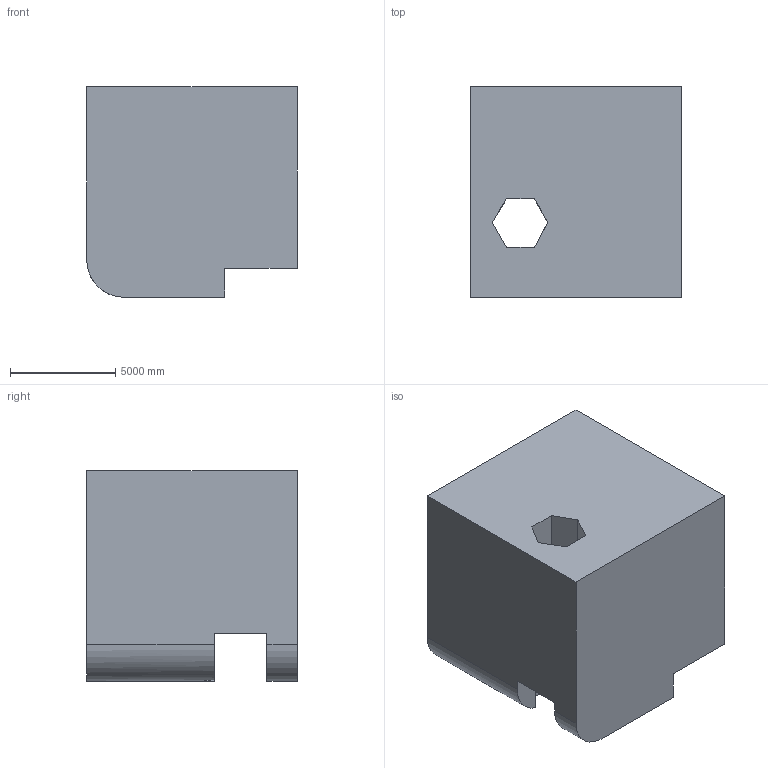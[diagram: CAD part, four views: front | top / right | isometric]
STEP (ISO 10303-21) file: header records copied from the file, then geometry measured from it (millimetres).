
FILE_DESCRIPTION (( 'STEP AP203' ), '1' );
FILE_NAME ('1404.STEP', '2022-08-18T14:16:37', ( 'user' ), ( '' ), 'SwSTEP 2.0', 'SolidWorks 2021', '' );
FILE_SCHEMA (( 'CONFIG_CONTROL_DESIGN' ));
Length unit declared in the file: centimetre
Products named in the file (1): 1404
Bounding box: 10000 x 10000 x 10000 mm (x, y, z)
Volume: 841552734002.3 mm3; surface area: 669546100 mm2
Topology: 1 solids, 1 shells, 32 faces, 93 edges, 62 vertices
Faces by surface type: plane 30, cylinder 2
Entity records: 1123 total; most frequent: CARTESIAN_POINT 191, ORIENTED_EDGE 186, DIRECTION 163, EDGE_CURVE 93, LINE 87, VECTOR 87, VERTEX_POINT 62, AXIS2_PLACEMENT_3D 38
